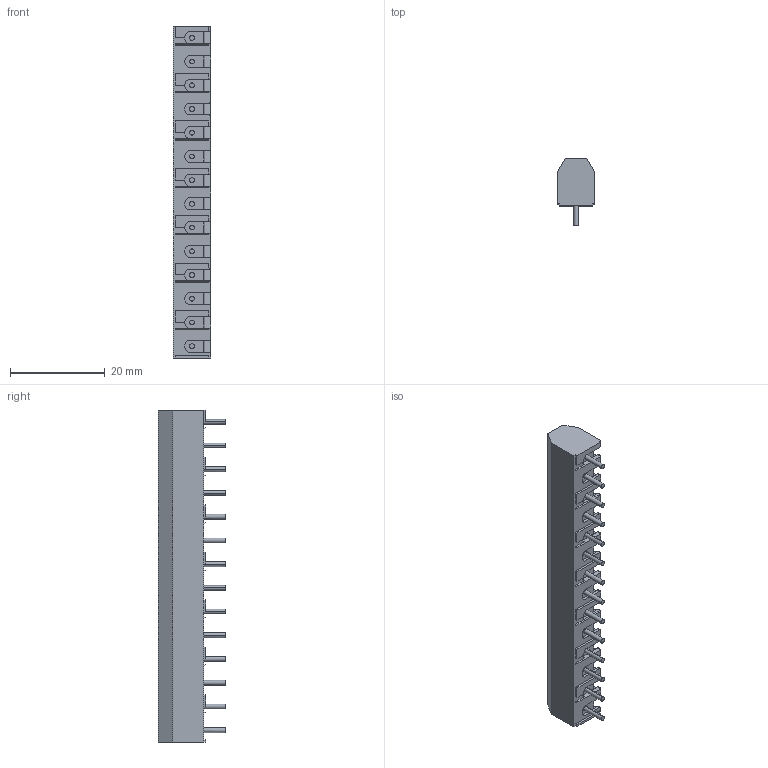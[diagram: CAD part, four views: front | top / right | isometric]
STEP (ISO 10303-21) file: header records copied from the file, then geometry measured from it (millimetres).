
FILE_DESCRIPTION (( 'STEP AP214' ), '1' );
FILE_NAME ('950-FB-14.STEP', '2008-03-19T03:02:21', ( ' ' ), ( '' ), 'SwSTEP 2.0', 'SolidWorks 2007', '' );
FILE_SCHEMA (( 'AUTOMOTIVE_DESIGN' ));
Length unit declared in the file: millimetre
Products named in the file (1): 950-FB-14
Bounding box: 8 x 14.2 x 70 mm (x, y, z)
Volume: 3924.5 mm3; surface area: 4345.5 mm2
Topology: 1 solids, 1 shells, 1034 faces, 3031 edges, 2013 vertices
Faces by surface type: plane 769, cylinder 231, cone 34
Entity records: 37123 total; most frequent: CARTESIAN_POINT 10621, ORIENTED_EDGE 6062, DIRECTION 4718, EDGE_CURVE 3031, VECTOR 2082, LINE 2082, VERTEX_POINT 2013, AXIS2_PLACEMENT_3D 1318
